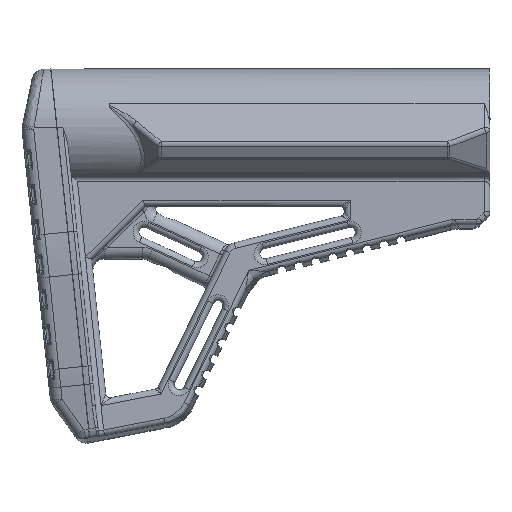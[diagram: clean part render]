
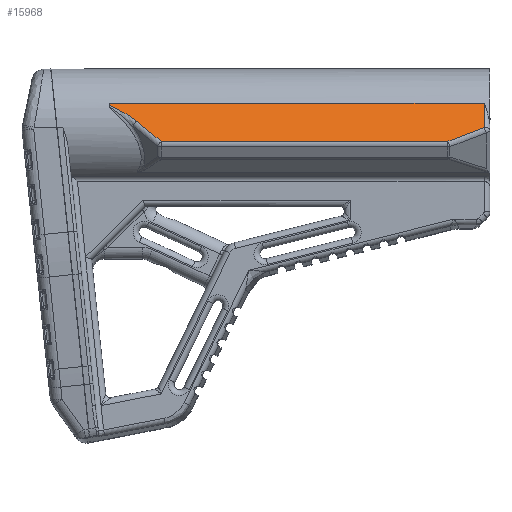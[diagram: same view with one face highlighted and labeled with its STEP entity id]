
A CAD part, top view. The second image highlights one B-rep face of the part: STEP entity #15968.
In plain terms, the highlighted planar face has unit normal (0, 0.424, 0.906) as drawn and (-0.342, 0.939, 0.044) by its records, which use the part's own axes.
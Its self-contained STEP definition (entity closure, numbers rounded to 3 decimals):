
#448=PLANE('',#17232);
#1470=FACE_OUTER_BOUND('',#2520,.T.);
#2520=EDGE_LOOP('',(#11002,#11003,#11004,#11005,#11006,#11007,#11008));
#3556=B_SPLINE_CURVE_WITH_KNOTS('',3,(#25676,#25677,#25678,#25679,#25680),
 .UNSPECIFIED.,.F.,.F.,(4,1,4),(0.,0.474,1.105),
 .UNSPECIFIED.);
#4272=LINE('',#25682,#5240);
#4273=LINE('',#25684,#5241);
#4274=LINE('',#25686,#5242);
#4275=LINE('',#25688,#5243);
#4276=LINE('',#25690,#5244);
#4277=LINE('',#25691,#5245);
#5240=VECTOR('',#19556,10.);
#5241=VECTOR('',#19557,10.);
#5242=VECTOR('',#19558,10.);
#5243=VECTOR('',#19559,10.);
#5244=VECTOR('',#19560,10.);
#5245=VECTOR('',#19561,10.);
#6608=VERTEX_POINT('',#25674);
#6609=VERTEX_POINT('',#25675);
#6610=VERTEX_POINT('',#25681);
#6611=VERTEX_POINT('',#25683);
#6612=VERTEX_POINT('',#25685);
#6613=VERTEX_POINT('',#25687);
#6614=VERTEX_POINT('',#25689);
#8244=EDGE_CURVE('',#6608,#6609,#3556,.T.);
#8245=EDGE_CURVE('',#6610,#6608,#4272,.T.);
#8246=EDGE_CURVE('',#6611,#6610,#4273,.T.);
#8247=EDGE_CURVE('',#6612,#6611,#4274,.T.);
#8248=EDGE_CURVE('',#6613,#6612,#4275,.T.);
#8249=EDGE_CURVE('',#6614,#6613,#4276,.T.);
#8250=EDGE_CURVE('',#6609,#6614,#4277,.T.);
#11002=ORIENTED_EDGE('',*,*,#8244,.F.);
#11003=ORIENTED_EDGE('',*,*,#8245,.F.);
#11004=ORIENTED_EDGE('',*,*,#8246,.F.);
#11005=ORIENTED_EDGE('',*,*,#8247,.F.);
#11006=ORIENTED_EDGE('',*,*,#8248,.F.);
#11007=ORIENTED_EDGE('',*,*,#8249,.F.);
#11008=ORIENTED_EDGE('',*,*,#8250,.F.);
#15968=ADVANCED_FACE('',(#1470),#448,.T.);
#17232=AXIS2_PLACEMENT_3D('',#25673,#19554,#19555);
#19554=DIRECTION('center_axis',(-0.342,0.939,0.044));
#19555=DIRECTION('ref_axis',(0.937,0.337,0.095));
#19556=DIRECTION('',(0.685,0.281,-0.672));
#19557=DIRECTION('',(0.074,0.074,-0.995));
#19558=DIRECTION('',(-0.3,-0.065,-0.952));
#19559=DIRECTION('',(-0.937,-0.337,-0.095));
#19560=DIRECTION('',(-0.074,-0.074,0.995));
#19561=DIRECTION('',(0.937,0.337,0.095));
#25673=CARTESIAN_POINT('Origin',(-349.774,187.359,123.879));
#25674=CARTESIAN_POINT('',(-332.694,199.217,4.641));
#25675=CARTESIAN_POINT('',(-326.435,201.909,-4.021));
#25676=CARTESIAN_POINT('Ctrl Pts',(-332.694,199.217,4.641));
#25677=CARTESIAN_POINT('Ctrl Pts',(-331.613,199.662,3.58));
#25678=CARTESIAN_POINT('Ctrl Pts',(-329.351,200.617,0.819));
#25679=CARTESIAN_POINT('Ctrl Pts',(-327.455,201.453,-2.24));
#25680=CARTESIAN_POINT('Ctrl Pts',(-326.435,201.909,-4.021));
#25681=CARTESIAN_POINT('',(-340.462,196.024,12.27));
#25682=CARTESIAN_POINT('',(-366.292,185.408,37.633));
#25683=CARTESIAN_POINT('',(-347.704,188.782,109.713));
#25684=CARTESIAN_POINT('',(-348.765,187.722,123.981));
#25685=CARTESIAN_POINT('',(-343.67,189.65,122.492));
#25686=CARTESIAN_POINT('',(-344.937,189.378,118.481));
#25687=CARTESIAN_POINT('',(-335.134,192.722,123.355));
#25688=CARTESIAN_POINT('',(-342.256,190.159,122.635));
#25689=CARTESIAN_POINT('',(-325.673,202.183,-3.944));
#25690=CARTESIAN_POINT('',(-335.281,192.575,125.344));
#25691=CARTESIAN_POINT('',(-340.165,196.967,-5.409));
